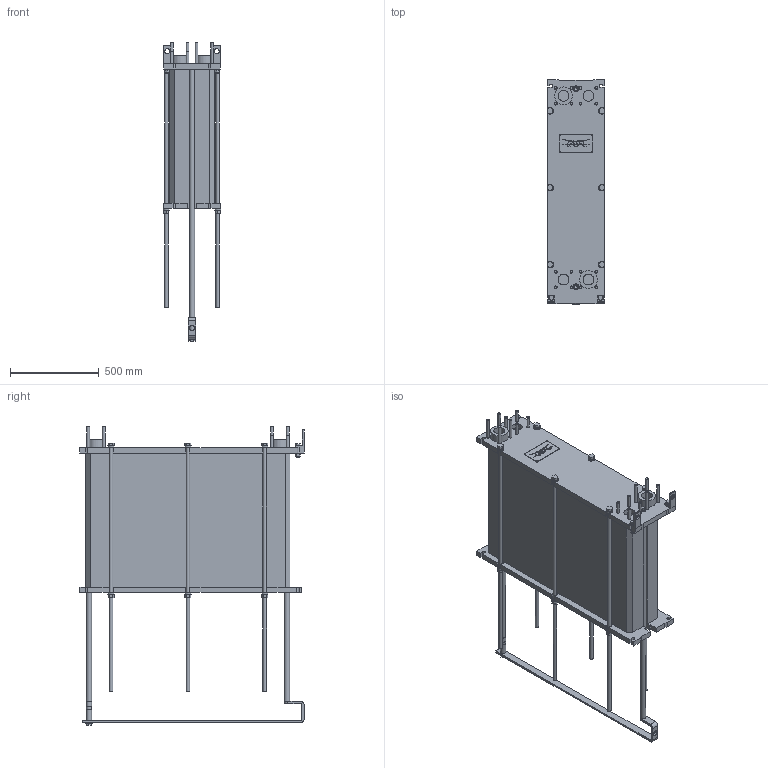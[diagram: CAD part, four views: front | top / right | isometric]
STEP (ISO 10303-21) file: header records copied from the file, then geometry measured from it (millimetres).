
FILE_DESCRIPTION(/* description */ (''),/* implementation_level */ '2;1');
FILE_NAME(/* name */ 'C:\temp\TL6_FG_LC1400_08_Rev0.stp',/* time_stamp */ '2016-02-02T13:37:30+08:00',/* author */ ('SELUJJNCX'),/* organization */ (''),/* preprocessor_version */ 'ST-DEVELOPER v15.6',/* originating_system */ 'Autodesk Inventor 2015',/* authorisation */ '270013742 mm^3');
FILE_SCHEMA (('AUTOMOTIVE_DESIGN { 1 0 10303 214 3 1 1 }'));
Length unit declared in the file: millimetre
Products named in the file (1): 3dmodel_TL6.7
Bounding box: 326 x 1264 x 1684.5 mm (x, y, z)
Volume: 236041351.5 mm3; surface area: 5035494.3 mm2
Topology: 1 solids, 3 shells, 857 faces, 2274 edges, 1495 vertices
Faces by surface type: plane 589, cylinder 236, cone 27, torus 5
Full cylindrical faces by diameter (mm): 4.049 x4, 16 x20, 18 x2, 20 x12, 22 x2, 28 x4, 30 x10, 32 x2, 36 x12, 37 x1, 61 x10, 100 x2
Entity records: 25804 total; most frequent: CARTESIAN_POINT 4474, DIRECTION 4355, ORIENTED_EDGE 4258, EDGE_CURVE 2129, LINE 1595, VECTOR 1595, VERTEX_POINT 1463, AXIS2_PLACEMENT_3D 1380
